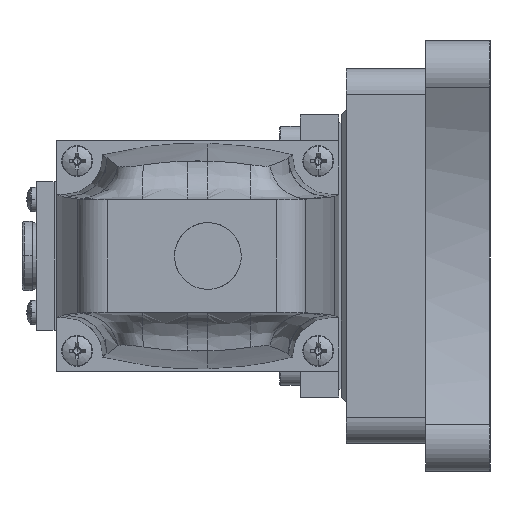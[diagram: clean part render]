
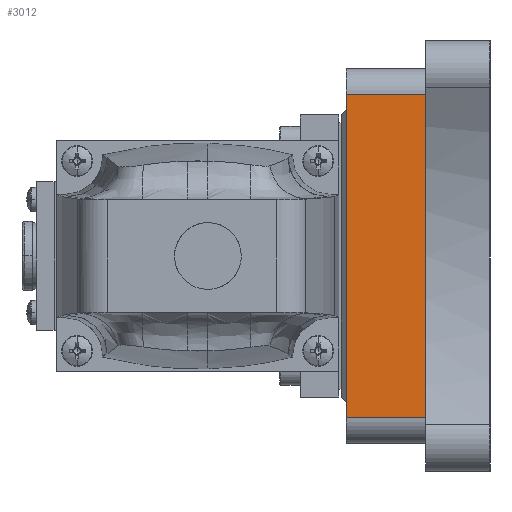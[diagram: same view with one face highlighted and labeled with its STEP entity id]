
A CAD part, left-side view. The second image highlights one B-rep face of the part: STEP entity #3012.
In plain terms, the highlighted planar face has unit normal (-1, 0, 0).
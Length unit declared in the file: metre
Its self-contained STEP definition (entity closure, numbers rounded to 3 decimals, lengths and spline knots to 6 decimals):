
#196 = DIRECTION ( 'NONE',  ( 0., 0., -1. ) ) ;
#235 = CARTESIAN_POINT ( 'NONE',  ( -0.094, -0.033, 0. ) ) ;
#293 = EDGE_CURVE ( 'NONE', #11312, #10496, #7507, .T. ) ;
#294 = VERTEX_POINT ( 'NONE', #13650 ) ;
#1089 = VECTOR ( 'NONE', #7211, 1. ) ;
#1484 = CARTESIAN_POINT ( 'NONE',  ( -0.094, -0.0175, -0.063 ) ) ;
#1628 = DIRECTION ( 'NONE',  ( 0., -1., 0. ) ) ;
#1811 = VECTOR ( 'NONE', #196, 1. ) ;
#1816 = VECTOR ( 'NONE', #15442, 1. ) ;
#2416 = ORIENTED_EDGE ( 'NONE', *, *, #9948, .T. ) ;
#2788 = DIRECTION ( 'NONE',  ( 1., 0., 0. ) ) ;
#2858 = PLANE ( 'NONE',  #5186 ) ;
#3012 = ADVANCED_FACE ( 'NONE', ( #8014 ), #2858, .F. ) ;
#3256 = DIRECTION ( 'NONE',  ( 0., 0., -1. ) ) ;
#3819 = CARTESIAN_POINT ( 'NONE',  ( -0.094, -0.033, 0.063 ) ) ;
#4497 = ORIENTED_EDGE ( 'NONE', *, *, #5046, .T. ) ;
#4813 = LINE ( 'NONE', #6604, #7723 ) ;
#4919 = VECTOR ( 'NONE', #1628, 1. ) ;
#4921 = EDGE_LOOP ( 'NONE', ( #2416, #6282, #13373, #4497, #8962 ) ) ;
#5046 = EDGE_CURVE ( 'NONE', #11312, #9393, #4813, .T. ) ;
#5186 = AXIS2_PLACEMENT_3D ( 'NONE', #3819, #2788, #3256 ) ;
#5364 = LINE ( 'NONE', #15390, #1816 ) ;
#5890 = VERTEX_POINT ( 'NONE', #14894 ) ;
#6200 = EDGE_CURVE ( 'NONE', #10496, #294, #13050, .T. ) ;
#6282 = ORIENTED_EDGE ( 'NONE', *, *, #6200, .F. ) ;
#6446 = DIRECTION ( 'NONE',  ( 0., 1., 0. ) ) ;
#6604 = CARTESIAN_POINT ( 'NONE',  ( -0.094, -0.0175, 0.063 ) ) ;
#7110 = CARTESIAN_POINT ( 'NONE',  ( -0.094, -0.033, 0. ) ) ;
#7134 = EDGE_CURVE ( 'NONE', #9393, #5890, #5364, .T. ) ;
#7211 = DIRECTION ( 'NONE',  ( 0., 0., -1. ) ) ;
#7507 = LINE ( 'NONE', #7110, #1089 ) ;
#7723 = VECTOR ( 'NONE', #6446, 1. ) ;
#8014 = FACE_OUTER_BOUND ( 'NONE', #4921, .T. ) ;
#8219 = LINE ( 'NONE', #1484, #4919 ) ;
#8638 = CARTESIAN_POINT ( 'NONE',  ( -0.094, -0.033, 0. ) ) ;
#8962 = ORIENTED_EDGE ( 'NONE', *, *, #7134, .T. ) ;
#9393 = VERTEX_POINT ( 'NONE', #14396 ) ;
#9948 = EDGE_CURVE ( 'NONE', #5890, #294, #8219, .T. ) ;
#10290 = CARTESIAN_POINT ( 'NONE',  ( -0.094, -0.033, 0.063 ) ) ;
#10496 = VERTEX_POINT ( 'NONE', #8638 ) ;
#11312 = VERTEX_POINT ( 'NONE', #10290 ) ;
#13050 = LINE ( 'NONE', #235, #1811 ) ;
#13373 = ORIENTED_EDGE ( 'NONE', *, *, #293, .F. ) ;
#13650 = CARTESIAN_POINT ( 'NONE',  ( -0.094, -0.033, -0.063 ) ) ;
#14396 = CARTESIAN_POINT ( 'NONE',  ( -0.094, -0.002, 0.063 ) ) ;
#14894 = CARTESIAN_POINT ( 'NONE',  ( -0.094, -0.002, -0.063 ) ) ;
#15390 = CARTESIAN_POINT ( 'NONE',  ( -0.094, -0.002, 0. ) ) ;
#15442 = DIRECTION ( 'NONE',  ( 0., 0., -1. ) ) ;
